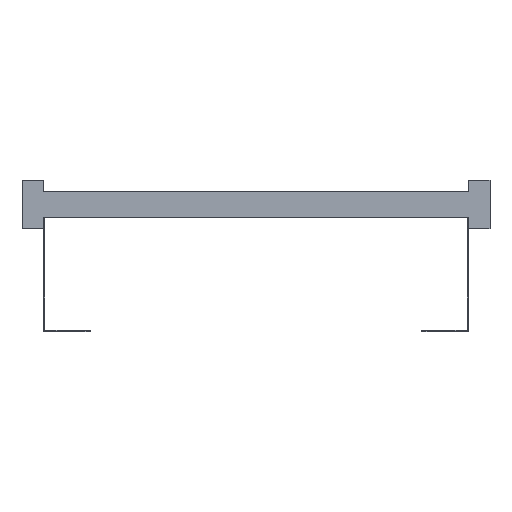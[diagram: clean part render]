
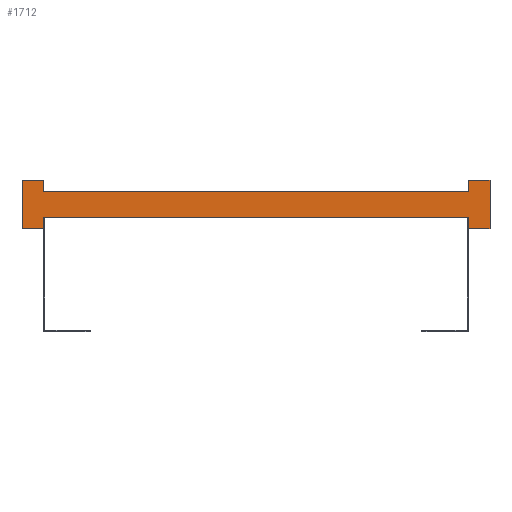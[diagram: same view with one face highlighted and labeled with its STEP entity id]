
A CAD part, front view. The second image highlights one B-rep face of the part: STEP entity #1712.
In plain terms, the highlighted planar face has unit normal (0, -1, 0).
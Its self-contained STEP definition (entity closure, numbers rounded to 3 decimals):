
#113=DIRECTION('',(0.,0.,1.));
#114=VECTOR('',#113,13.5);
#115=CARTESIAN_POINT('',(250.,0.,-28.5));
#116=LINE('',#115,#114);
#117=DIRECTION('',(0.,0.,-1.));
#118=VECTOR('',#117,13.5);
#119=CARTESIAN_POINT('',(-250.,0.,-15.));
#120=LINE('',#119,#118);
#121=DIRECTION('',(-1.,0.,0.));
#122=VECTOR('',#121,25.);
#123=CARTESIAN_POINT('',(-250.,0.,-28.5));
#124=LINE('',#123,#122);
#125=DIRECTION('',(0.,0.,1.));
#126=VECTOR('',#125,57.);
#127=CARTESIAN_POINT('',(-275.,0.,-28.5));
#128=LINE('',#127,#126);
#129=DIRECTION('',(1.,0.,0.));
#130=VECTOR('',#129,25.);
#131=CARTESIAN_POINT('',(-275.,0.,28.5));
#132=LINE('',#131,#130);
#133=DIRECTION('',(0.,0.,-1.));
#134=VECTOR('',#133,13.5);
#135=CARTESIAN_POINT('',(-250.,0.,28.5));
#136=LINE('',#135,#134);
#137=DIRECTION('',(0.,0.,1.));
#138=VECTOR('',#137,13.5);
#139=CARTESIAN_POINT('',(250.,0.,15.));
#140=LINE('',#139,#138);
#141=DIRECTION('',(1.,0.,0.));
#142=VECTOR('',#141,25.);
#143=CARTESIAN_POINT('',(250.,0.,28.5));
#144=LINE('',#143,#142);
#145=DIRECTION('',(0.,0.,-1.));
#146=VECTOR('',#145,57.);
#147=CARTESIAN_POINT('',(275.,0.,28.5));
#148=LINE('',#147,#146);
#149=DIRECTION('',(-1.,0.,0.));
#150=VECTOR('',#149,25.);
#151=CARTESIAN_POINT('',(275.,0.,-28.5));
#152=LINE('',#151,#150);
#1281=DIRECTION('',(1.,0.,0.));
#1282=VECTOR('',#1281,500.);
#1283=CARTESIAN_POINT('',(-250.,0.,-15.));
#1284=LINE('',#1283,#1282);
#1293=DIRECTION('',(1.,0.,0.));
#1294=VECTOR('',#1293,500.);
#1295=CARTESIAN_POINT('',(-250.,0.,15.));
#1296=LINE('',#1295,#1294);
#1297=CARTESIAN_POINT('',(-275.,0.,28.5));
#1298=CARTESIAN_POINT('',(-250.,0.,28.5));
#1299=VERTEX_POINT('',#1297);
#1300=VERTEX_POINT('',#1298);
#1301=CARTESIAN_POINT('',(-250.,0.,-28.5));
#1302=CARTESIAN_POINT('',(-275.,0.,-28.5));
#1303=VERTEX_POINT('',#1301);
#1304=VERTEX_POINT('',#1302);
#1305=CARTESIAN_POINT('',(275.,0.,28.5));
#1306=CARTESIAN_POINT('',(275.,0.,-28.5));
#1307=VERTEX_POINT('',#1305);
#1308=VERTEX_POINT('',#1306);
#1309=CARTESIAN_POINT('',(250.,0.,-28.5));
#1310=VERTEX_POINT('',#1309);
#1311=CARTESIAN_POINT('',(250.,0.,28.5));
#1312=VERTEX_POINT('',#1311);
#1329=CARTESIAN_POINT('',(-250.,0.,-15.));
#1331=VERTEX_POINT('',#1329);
#1333=CARTESIAN_POINT('',(-250.,0.,15.));
#1335=VERTEX_POINT('',#1333);
#1337=CARTESIAN_POINT('',(250.,0.,-15.));
#1339=VERTEX_POINT('',#1337);
#1341=CARTESIAN_POINT('',(250.,0.,15.));
#1343=VERTEX_POINT('',#1341);
#1681=CARTESIAN_POINT('',(0.,0.,0.));
#1682=DIRECTION('',(0.,1.,0.));
#1683=DIRECTION('',(1.,0.,0.));
#1684=AXIS2_PLACEMENT_3D('',#1681,#1682,#1683);
#1685=PLANE('',#1684);
#1687=ORIENTED_EDGE('',*,*,#1686,.T.);
#1689=ORIENTED_EDGE('',*,*,#1688,.F.);
#1691=ORIENTED_EDGE('',*,*,#1690,.T.);
#1693=ORIENTED_EDGE('',*,*,#1692,.T.);
#1695=ORIENTED_EDGE('',*,*,#1694,.T.);
#1697=ORIENTED_EDGE('',*,*,#1696,.T.);
#1699=ORIENTED_EDGE('',*,*,#1698,.T.);
#1701=ORIENTED_EDGE('',*,*,#1700,.T.);
#1703=ORIENTED_EDGE('',*,*,#1702,.T.);
#1705=ORIENTED_EDGE('',*,*,#1704,.T.);
#1707=ORIENTED_EDGE('',*,*,#1706,.T.);
#1709=ORIENTED_EDGE('',*,*,#1708,.T.);
#1710=EDGE_LOOP('',(#1687,#1689,#1691,#1693,#1695,#1697,#1699,#1701,#1703,#1705,
#1707,#1709));
#1711=FACE_OUTER_BOUND('',#1710,.F.);
#1686=EDGE_CURVE('',#1310,#1339,#116,.T.);
#1688=EDGE_CURVE('',#1331,#1339,#1284,.T.);
#1690=EDGE_CURVE('',#1331,#1303,#120,.T.);
#1692=EDGE_CURVE('',#1303,#1304,#124,.T.);
#1694=EDGE_CURVE('',#1304,#1299,#128,.T.);
#1696=EDGE_CURVE('',#1299,#1300,#132,.T.);
#1698=EDGE_CURVE('',#1300,#1335,#136,.T.);
#1700=EDGE_CURVE('',#1335,#1343,#1296,.T.);
#1702=EDGE_CURVE('',#1343,#1312,#140,.T.);
#1704=EDGE_CURVE('',#1312,#1307,#144,.T.);
#1706=EDGE_CURVE('',#1307,#1308,#148,.T.);
#1708=EDGE_CURVE('',#1308,#1310,#152,.T.);
#1712=ADVANCED_FACE('',(#1711),#1685,.F.);
